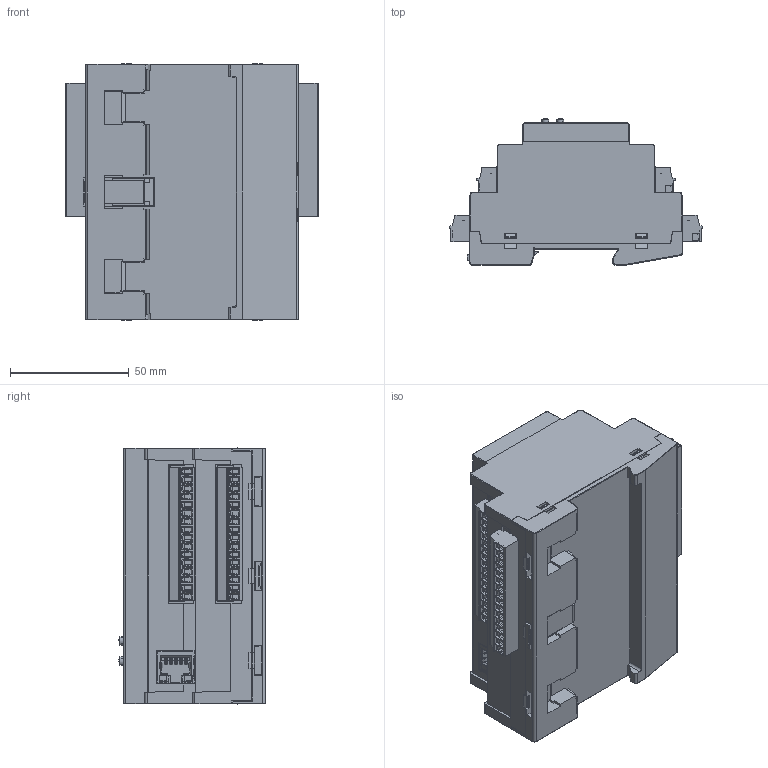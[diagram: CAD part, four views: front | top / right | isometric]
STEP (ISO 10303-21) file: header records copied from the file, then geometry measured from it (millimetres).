
FILE_DESCRIPTION(/* description */ (''),/* implementation_level */ '2;1');
FILE_NAME(/* name */ 'KNX_IP_Multi_IO_580.stp',/* time_stamp */ '2019-11-13T08:41:41+01:00',/* author */ (''),/* organization */ (''),/* preprocessor_version */ 'ST-DEVELOPER v17',/* originating_system */ 'Autodesk Inventor 2018',/* authorisation */ '');
FILE_SCHEMA (('AUTOMOTIVE_DESIGN { 1 0 10303 214 3 1 1 }'));
Products named in the file (1): KNX_IP_Multi_IO_580
Bounding box: 106.7 x 61.65 x 108 mm (x, y, z)
Volume: 450064.7 mm3; surface area: 63496.8 mm2
Topology: 1 solids, 21 shells, 5497 faces, 15337 edges, 10084 vertices
Faces by surface type: plane 3872, cylinder 1130, cone 221, torus 212, bspline 44, sphere 18
Full cylindrical faces by diameter (mm): 2.8 x64, 2.9 x64
Entity records: 197197 total; most frequent: CARTESIAN_POINT 49056, ORIENTED_EDGE 30638, DIRECTION 28728, EDGE_CURVE 15319, LINE 10990, VECTOR 10990, VERTEX_POINT 10084, AXIS2_PLACEMENT_3D 8869
